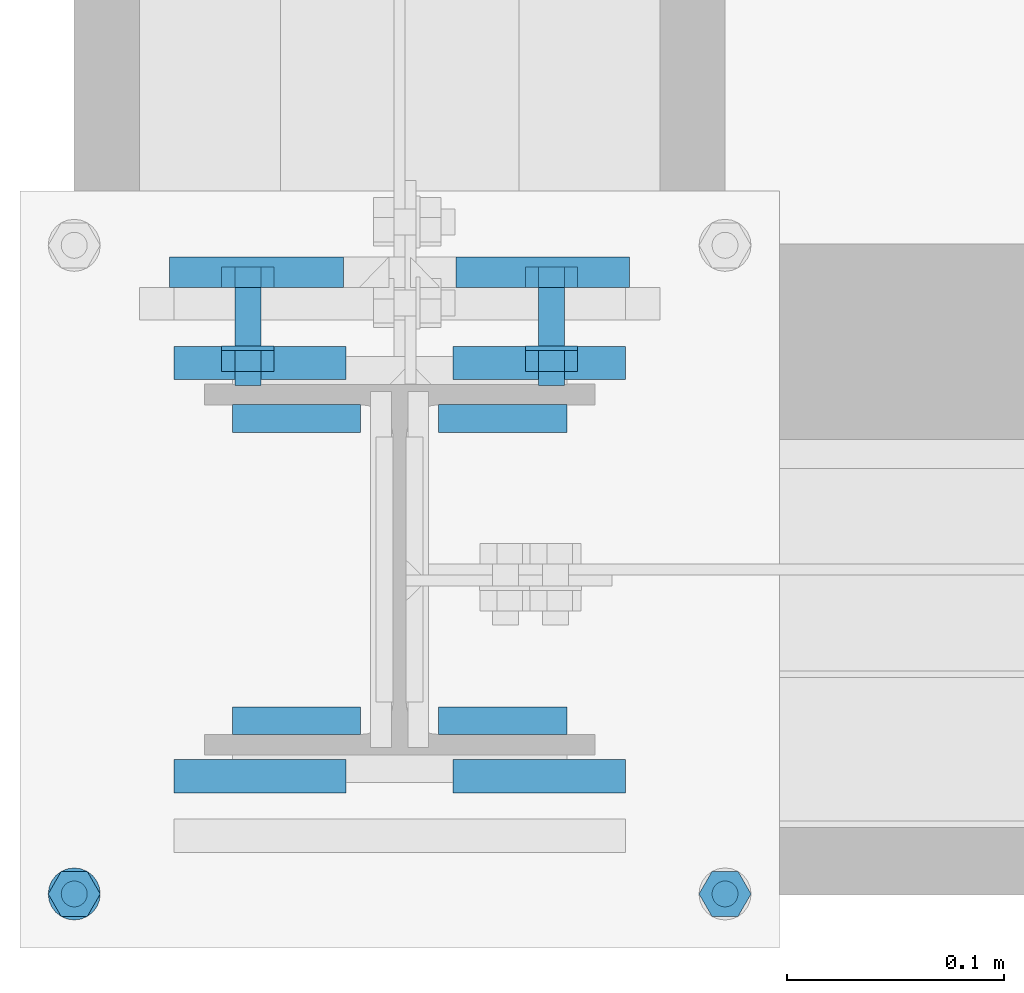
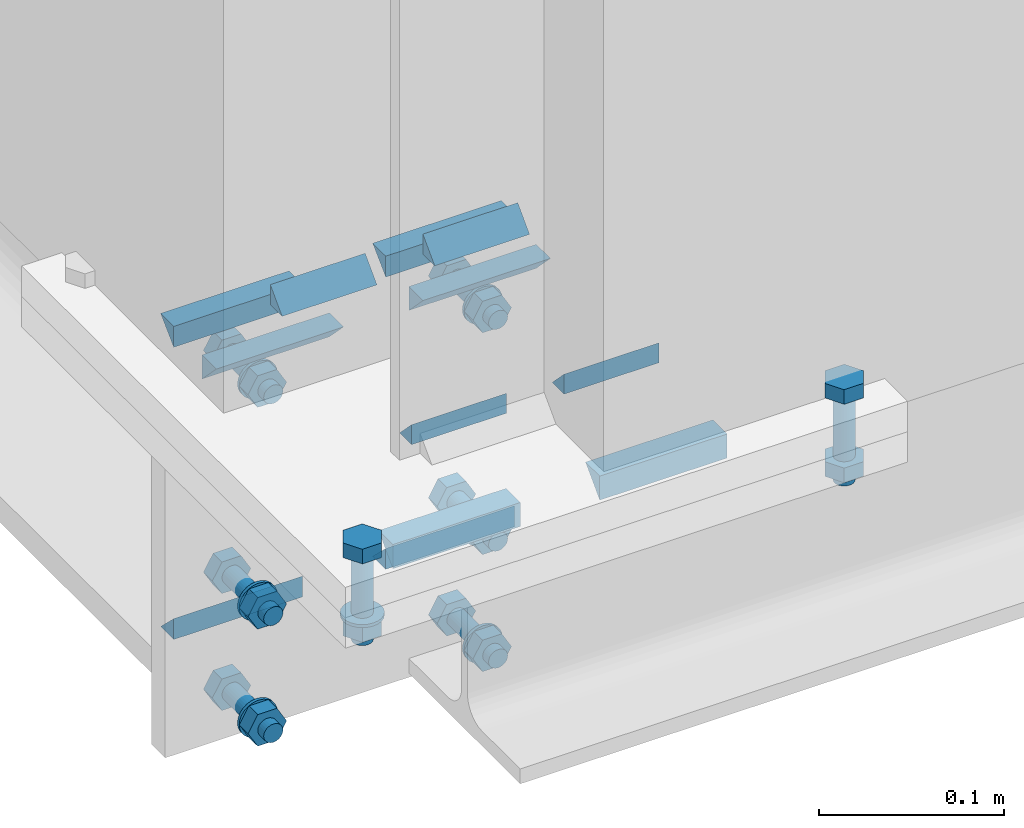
# One storey, part 26 of 66: 31 mechanical fasteners, 20 fasteners.
"""IFC4 building model written with IfcOpenShell, lengths in metres."""

from ifc_helpers import new_model, si_unit, frame, origin_with_axes, place, context, project, spatial, polyline, outline, extrude, type_object, element, save


model = new_model("IFC4")

# Units and contexts
model_context = context("Model", 3, precision=1e-05, world=origin_with_axes())
ifc_project = project(units=[si_unit("LENGTHUNIT", "METRE"), si_unit("AREAUNIT", "SQUARE_METRE"), si_unit("VOLUMEUNIT", "CUBIC_METRE"), si_unit("MASSUNIT", "GRAM", prefix="KILO"), si_unit("TIMEUNIT", "SECOND"), si_unit("PLANEANGLEUNIT", "RADIAN"), si_unit("SOLIDANGLEUNIT", "STERADIAN"), si_unit("THERMODYNAMICTEMPERATUREUNIT", "DEGREE_CELSIUS")], contexts=[model_context])

# Site, building, storey
placement_1 = place(None, origin_with_axes())
site = spatial("IfcSite", under=ifc_project, at=placement_1, Name="Italia", CompositionType="ELEMENT")
building = spatial("IfcBuilding", under=site, at=placement_1, Name="Uffici", CompositionType="ELEMENT")
storey_placement = place(None, frame((0.0, 0.0, 3.299999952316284), z_axis=(0.0, 0.0, 1.0), x_axis=(1.0, 0.0, 0.0)))
storey = spatial("IfcBuildingStorey", under=building, at=storey_placement, Name="Storey 1", CompositionType="ELEMENT", Elevation=3.299999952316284)

# Fasteners
fastener_type_1 = type_object("IfcFastenerType", Name="Collegamenti 0101_-001 0102_-002 0103_-003 0104_-004", PredefinedType="WELD")
placement_2 = place(placement_1, origin_with_axes())
fastener_1_placement = place(placement_2, origin_with_axes())
element("IfcFastener", 1, at=fastener_1_placement, inside=storey, type_object=fastener_type_1, Name="Collegamenti 0101_-001 0102_-002 0103_-003 0104_-004", context=model_context, shape_type="SweptSolid", body=[
    extrude(outline(polyline([(0.0, 0.0), (-0.0141734, 0.0137482), (0.0, 0.0137482), (0.0, 0.0)])), frame((-0.02595, 0.12995, 3.2693), z_axis=(-1.0, 0.0, 0.0), x_axis=(0.0, -1.0, 0.0)), (0.0, 0.0, 1.0), 0.0801),
])
fastener_type_2 = type_object("IfcFastenerType", Name="Collegamenti 0101_-001 0102_-002 0103_-003 0104_-004", PredefinedType="WELD")
fastener_2_placement = place(placement_2, origin_with_axes())
element("IfcFastener", 2, at=fastener_2_placement, inside=storey, type_object=fastener_type_2, Name="Collegamenti 0101_-001 0102_-002 0103_-003 0104_-004", context=model_context, shape_type="SweptSolid", body=[
    extrude(outline(polyline([(0.0, 0.0), (0.0141734, -0.0137482), (0.0, -0.0137482), (0.0, 0.0)])), frame((-0.10605, 0.12995, 3.0907), z_axis=(1.0, 0.0, 0.0), x_axis=(0.0, 1.0, 0.0)), (0.0, 0.0, 1.0), 0.0801),
])
fastener_type_3 = type_object("IfcFastenerType", Name="Collegamenti 0101_-001 0102_-002 0103_-003 0104_-004", PredefinedType="WELD")
fastener_3_placement = place(placement_2, origin_with_axes())
element("IfcFastener", 3, at=fastener_3_placement, inside=storey, type_object=fastener_type_3, Name="Collegamenti 0101_-001 0102_-002 0103_-003 0104_-004", context=model_context, shape_type="SweptSolid", body=[
    extrude(outline(polyline([(0.0, 0.0), (0.0141734, -0.0137482), (0.0, -0.0137482), (0.0, 0.0)])), frame((0.02595, 0.12995, 3.0907), z_axis=(1.0, 0.0, 0.0), x_axis=(0.0, 1.0, 0.0)), (0.0, 0.0, 1.0), 0.0801),
])
fastener_type_4 = type_object("IfcFastenerType", Name="Collegamenti 0101_-001 0102_-002 0103_-003 0104_-004", PredefinedType="WELD")
fastener_4_placement = place(placement_2, origin_with_axes())
element("IfcFastener", 4, at=fastener_4_placement, inside=storey, type_object=fastener_type_4, Name="Collegamenti 0101_-001 0102_-002 0103_-003 0104_-004", context=model_context, shape_type="SweptSolid", body=[
    extrude(outline(polyline([(0.0, 0.0), (-0.0141733, 0.0137482), (0.0, 0.0137482), (0.0, 0.0)])), frame((0.10605, 0.12995, 3.2693), z_axis=(-1.0, 0.0, 0.0), x_axis=(0.0, -1.0, 0.0)), (0.0, 0.0, 1.0), 0.0801),
])
fastener_type_5 = type_object("IfcFastenerType", Name="Collegamenti 0101_-001 0102_-002 0103_-003 0104_-004", PredefinedType="WELD")
fastener_5_placement = place(placement_2, origin_with_axes())
element("IfcFastener", 5, at=fastener_5_placement, inside=storey, type_object=fastener_type_5, Name="Collegamenti 0101_-001 0102_-002 0103_-003 0104_-004", context=model_context, shape_type="SweptSolid", body=[
    extrude(outline(polyline([(0.0, 0.0), (-0.0141734, 0.0137482), (0.0, 0.0137482), (0.0, 0.0)])), frame((-0.02595, 0.12995, 3.2693), z_axis=(-1.0, 0.0, 0.0), x_axis=(0.0, -1.0, 0.0)), (0.0, 0.0, 1.0), 0.0801),
])
fastener_type_6 = type_object("IfcFastenerType", Name="Collegamenti 0101_-001 0102_-002 0103_-003 0104_-004", PredefinedType="WELD")
fastener_6_placement = place(placement_2, origin_with_axes())
element("IfcFastener", 6, at=fastener_6_placement, inside=storey, type_object=fastener_type_6, Name="Collegamenti 0101_-001 0102_-002 0103_-003 0104_-004", context=model_context, shape_type="SweptSolid", body=[
    extrude(outline(polyline([(0.0, 0.0), (0.0141734, -0.0137482), (0.0, -0.0137482), (0.0, 0.0)])), frame((-0.10605, 0.12995, 3.0907), z_axis=(1.0, 0.0, 0.0), x_axis=(0.0, 1.0, 0.0)), (0.0, 0.0, 1.0), 0.0801),
])
fastener_type_7 = type_object("IfcFastenerType", Name="Collegamenti 0101_-001 0102_-002 0103_-003 0104_-004", PredefinedType="WELD")
fastener_7_placement = place(placement_2, origin_with_axes())
element("IfcFastener", 7, at=fastener_7_placement, inside=storey, type_object=fastener_type_7, Name="Collegamenti 0101_-001 0102_-002 0103_-003 0104_-004", context=model_context, shape_type="SweptSolid", body=[
    extrude(outline(polyline([(0.0, 0.0), (0.0141734, -0.0137482), (0.0, -0.0137482), (0.0, 0.0)])), frame((0.02595, 0.12995, 3.0907), z_axis=(1.0, 0.0, 0.0), x_axis=(0.0, 1.0, 0.0)), (0.0, 0.0, 1.0), 0.0801),
])
fastener_type_8 = type_object("IfcFastenerType", Name="Collegamenti 0101_-001 0102_-002 0103_-003 0104_-004", PredefinedType="WELD")
fastener_8_placement = place(placement_2, origin_with_axes())
element("IfcFastener", 8, at=fastener_8_placement, inside=storey, type_object=fastener_type_8, Name="Collegamenti 0101_-001 0102_-002 0103_-003 0104_-004", context=model_context, shape_type="SweptSolid", body=[
    extrude(outline(polyline([(0.0, 0.0), (-0.0141733, 0.0137482), (0.0, 0.0137482), (0.0, 0.0)])), frame((0.10605, 0.12995, 3.2693), z_axis=(-1.0, 0.0, 0.0), x_axis=(0.0, -1.0, 0.0)), (0.0, 0.0, 1.0), 0.0801),
])

# Mechanical fasteners
mechanical_fastener_type_1 = type_object("IfcMechanicalFastenerType", Name="Collegamenti 0101_-001 0102_-002 0103_-003 0104_-004", PredefinedType="BOLT")
mechanical_fastener_1_placement = place(placement_2, origin_with_axes())
element("IfcMechanicalFastener", 9, at=mechanical_fastener_1_placement, inside=storey, type_object=mechanical_fastener_type_1, Name="Collegamenti 0101_-001 0102_-002 0103_-003 0104_-004", NominalDiameter=0.0119999, context=model_context, shape_type="SweptSolid", body=[
    extrude(outline(polyline([(0.0, 0.0), (-0.012, 0.0), (-0.018, 0.0103924), (-0.012, 0.0207846), (0.0, 0.0207846), (0.006, 0.0103924), (0.0, 0.0)])), frame((0.064, 0.13, 3.09661), z_axis=(0.0, 1.0, 0.0), x_axis=(-1.0, 0.0, 0.0)), (0.0, 0.0, 1.0), 0.0096),
])
mechanical_fastener_type_2 = type_object("IfcMechanicalFastenerType", Name="Collegamenti 0101_-001 0102_-002 0103_-003 0104_-004", PredefinedType="BOLT")
mechanical_fastener_2_placement = place(placement_2, origin_with_axes())
element("IfcMechanicalFastener", 10, at=mechanical_fastener_2_placement, inside=storey, type_object=mechanical_fastener_type_2, Name="Collegamenti 0101_-001 0102_-002 0103_-003 0104_-004", NominalDiameter=0.012, context=model_context, shape_type="SweptSolid", body=[
    extrude(outline(polyline([(0.0, 0.0), (-0.000204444, -0.00155282), (-0.000803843, -0.00300002), (-0.00175735, -0.00424266), (-0.003, -0.00519609), (-0.00444708, -0.00579548), (-0.006, -0.00600004), (-0.00755291, -0.00579548), (-0.009, -0.00519609), (-0.0102426, -0.00424266), (-0.0111962, -0.00300002), (-0.0117956, -0.00155282), (-0.012, 0.0), (-0.0117956, 0.00155282), (-0.0111962, 0.00300002), (-0.0102426, 0.00424266), (-0.009, 0.00519609), (-0.00755291, 0.00579548), (-0.006, 0.00600004), (-0.00444708, 0.00579548), (-0.003, 0.00519609), (-0.00175735, 0.00424266), (-0.000803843, 0.00300002), (-0.000204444, 0.00155282), (0.0, 0.0)])), frame((0.064, 0.085, 3.107), z_axis=(0.0, 1.0, 0.0), x_axis=(-1.0, 0.0, 0.0)), (0.0, 0.0, 1.0), 0.045),
])
mechanical_fastener_type_3 = type_object("IfcMechanicalFastenerType", Name="Collegamenti 0101_-001 0102_-002 0103_-003 0104_-004", PredefinedType="BOLT")
mechanical_fastener_3_placement = place(placement_2, origin_with_axes())
element("IfcMechanicalFastener", 11, at=mechanical_fastener_3_placement, inside=storey, type_object=mechanical_fastener_type_3, Name="Collegamenti 0101_-001 0102_-002 0103_-003 0104_-004", NominalDiameter=0.0119999, context=model_context, shape_type="SweptSolid", body=[
    extrude(outline(polyline([(0.0, 0.0), (-0.012, 0.0), (-0.018, 0.0103924), (-0.012, 0.0207846), (0.0, 0.0207846), (0.006, 0.0103924), (0.0, 0.0)])), frame((0.064, 0.0914, 3.09661), z_axis=(0.0, 1.0, 0.0), x_axis=(-1.0, 0.0, 0.0)), (0.0, 0.0, 1.0), 0.0096),
])
mechanical_fastener_type_4 = type_object("IfcMechanicalFastenerType", Name="Collegamenti 0101_-001 0102_-002 0103_-003 0104_-004", PredefinedType="BOLT")
mechanical_fastener_4_placement = place(placement_2, origin_with_axes())
element("IfcMechanicalFastener", 12, at=mechanical_fastener_4_placement, inside=storey, type_object=mechanical_fastener_type_4, Name="Collegamenti 0101_-001 0102_-002 0103_-003 0104_-004", NominalDiameter=0.024, context=model_context, shape_type="SweptSolid", body=[
    extrude(outline(polyline([(0.0, 0.0), (-0.000408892, -0.00310588), (-0.0016077, -0.00600004), (-0.00351472, -0.00848532), (-0.006, -0.0103922), (-0.00889418, -0.0115912), (-0.012, -0.0120001), (-0.0151058, -0.0115912), (-0.018, -0.0103922), (-0.0204853, -0.00848532), (-0.0223923, -0.00600004), (-0.0235911, -0.00310588), (-0.024, 0.0), (-0.0235911, 0.00310588), (-0.0223923, 0.00600004), (-0.0204853, 0.00848532), (-0.018, 0.0103922), (-0.0151058, 0.0115912), (-0.012, 0.0120001), (-0.00889418, 0.0115912), (-0.006, 0.0103922), (-0.00351472, 0.00848532), (-0.00160769, 0.00600004), (-0.000408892, 0.00310588), (0.0, 0.0)])), frame((0.058, 0.101, 3.107), z_axis=(0.0, 1.0, 0.0), x_axis=(-1.0, 0.0, 0.0)), (0.0, 0.0, 1.0), 0.002),
])
mechanical_fastener_type_5 = type_object("IfcMechanicalFastenerType", Name="Collegamenti 0101_-001 0102_-002 0103_-003 0104_-004", PredefinedType="BOLT")
mechanical_fastener_5_placement = place(placement_2, origin_with_axes())
element("IfcMechanicalFastener", 13, at=mechanical_fastener_5_placement, inside=storey, type_object=mechanical_fastener_type_5, Name="Collegamenti 0101_-001 0102_-002 0103_-003 0104_-004", NominalDiameter=0.0119999, context=model_context, shape_type="SweptSolid", body=[
    extrude(outline(polyline([(0.0, 0.0), (-0.012, 0.0), (-0.018, 0.0103924), (-0.012, 0.0207846), (0.0, 0.0207846), (0.006, 0.0103924), (0.0, 0.0)])), frame((-0.076, 0.13, 3.09661), z_axis=(0.0, 1.0, 0.0), x_axis=(-1.0, 0.0, 0.0)), (0.0, 0.0, 1.0), 0.0096),
])
mechanical_fastener_type_6 = type_object("IfcMechanicalFastenerType", Name="Collegamenti 0101_-001 0102_-002 0103_-003 0104_-004", PredefinedType="BOLT")
mechanical_fastener_6_placement = place(placement_2, origin_with_axes())
element("IfcMechanicalFastener", 14, at=mechanical_fastener_6_placement, inside=storey, type_object=mechanical_fastener_type_6, Name="Collegamenti 0101_-001 0102_-002 0103_-003 0104_-004", NominalDiameter=0.012, context=model_context, shape_type="SweptSolid", body=[
    extrude(outline(polyline([(0.0, 0.0), (-0.000204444, -0.00155282), (-0.000803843, -0.00300002), (-0.00175735, -0.00424266), (-0.003, -0.00519609), (-0.00444708, -0.00579548), (-0.006, -0.00600004), (-0.00755291, -0.00579548), (-0.009, -0.00519609), (-0.0102426, -0.00424266), (-0.0111962, -0.00300002), (-0.0117956, -0.00155282), (-0.012, 0.0), (-0.0117956, 0.00155282), (-0.0111962, 0.00300002), (-0.0102426, 0.00424266), (-0.009, 0.00519609), (-0.00755291, 0.00579548), (-0.006, 0.00600004), (-0.00444708, 0.00579548), (-0.003, 0.00519609), (-0.00175735, 0.00424266), (-0.000803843, 0.00300002), (-0.000204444, 0.00155282), (0.0, 0.0)])), frame((-0.076, 0.085, 3.107), z_axis=(0.0, 1.0, 0.0), x_axis=(-1.0, 0.0, 0.0)), (0.0, 0.0, 1.0), 0.045),
])
mechanical_fastener_type_7 = type_object("IfcMechanicalFastenerType", Name="Collegamenti 0101_-001 0102_-002 0103_-003 0104_-004", PredefinedType="BOLT")
mechanical_fastener_7_placement = place(placement_2, origin_with_axes())
element("IfcMechanicalFastener", 15, at=mechanical_fastener_7_placement, inside=storey, type_object=mechanical_fastener_type_7, Name="Collegamenti 0101_-001 0102_-002 0103_-003 0104_-004", NominalDiameter=0.0119999, context=model_context, shape_type="SweptSolid", body=[
    extrude(outline(polyline([(0.0, 0.0), (-0.012, 0.0), (-0.018, 0.0103924), (-0.012, 0.0207846), (0.0, 0.0207846), (0.006, 0.0103924), (0.0, 0.0)])), frame((-0.076, 0.0914, 3.09661), z_axis=(0.0, 1.0, 0.0), x_axis=(-1.0, 0.0, 0.0)), (0.0, 0.0, 1.0), 0.00960001),
])
mechanical_fastener_type_8 = type_object("IfcMechanicalFastenerType", Name="Collegamenti 0101_-001 0102_-002 0103_-003 0104_-004", PredefinedType="BOLT")
mechanical_fastener_8_placement = place(placement_2, origin_with_axes())
element("IfcMechanicalFastener", 16, at=mechanical_fastener_8_placement, inside=storey, type_object=mechanical_fastener_type_8, Name="Collegamenti 0101_-001 0102_-002 0103_-003 0104_-004", NominalDiameter=0.024, context=model_context, shape_type="SweptSolid", body=[
    extrude(outline(polyline([(0.0, 0.0), (-0.000408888, -0.00310588), (-0.0016077, -0.00600004), (-0.00351472, -0.00848532), (-0.006, -0.0103922), (-0.00889418, -0.0115912), (-0.012, -0.0120001), (-0.0151058, -0.0115912), (-0.018, -0.0103922), (-0.0204853, -0.00848532), (-0.0223923, -0.00600004), (-0.0235911, -0.00310588), (-0.024, 0.0), (-0.0235911, 0.00310588), (-0.0223923, 0.00600004), (-0.0204853, 0.00848532), (-0.018, 0.0103922), (-0.0151058, 0.0115912), (-0.012, 0.0120001), (-0.00889418, 0.0115912), (-0.006, 0.0103922), (-0.00351471, 0.00848532), (-0.00160769, 0.00600004), (-0.000408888, 0.00310588), (0.0, 0.0)])), frame((-0.082, 0.101, 3.107), z_axis=(0.0, 1.0, 0.0), x_axis=(-1.0, 0.0, 0.0)), (0.0, 0.0, 1.0), 0.002),
])
mechanical_fastener_type_9 = type_object("IfcMechanicalFastenerType", Name="Collegamenti 0101_-001 0102_-002 0103_-003 0104_-004", PredefinedType="BOLT")
mechanical_fastener_9_placement = place(placement_2, origin_with_axes())
element("IfcMechanicalFastener", 17, at=mechanical_fastener_9_placement, inside=storey, type_object=mechanical_fastener_type_9, Name="Collegamenti 0101_-001 0102_-002 0103_-003 0104_-004", NominalDiameter=0.0119999, context=model_context, shape_type="SweptSolid", body=[
    extrude(outline(polyline([(0.0, 0.0), (-0.012, 0.0), (-0.018, 0.0103922), (-0.012, 0.0207846), (0.0, 0.0207846), (0.006, 0.0103922), (0.0, 0.0)])), frame((0.064, 0.13, 3.24261), z_axis=(0.0, 1.0, 0.0), x_axis=(-1.0, 0.0, 0.0)), (0.0, 0.0, 1.0), 0.0096),
])
mechanical_fastener_type_10 = type_object("IfcMechanicalFastenerType", Name="Collegamenti 0101_-001 0102_-002 0103_-003 0104_-004", PredefinedType="BOLT")
mechanical_fastener_10_placement = place(placement_2, origin_with_axes())
element("IfcMechanicalFastener", 18, at=mechanical_fastener_10_placement, inside=storey, type_object=mechanical_fastener_type_10, Name="Collegamenti 0101_-001 0102_-002 0103_-003 0104_-004", NominalDiameter=0.012, context=model_context, shape_type="SweptSolid", body=[
    extrude(outline(polyline([(0.0, 0.0), (-0.000204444, -0.00155282), (-0.000803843, -0.00300002), (-0.00175735, -0.00424266), (-0.003, -0.00519609), (-0.00444708, -0.00579548), (-0.006, -0.00600004), (-0.00755291, -0.00579548), (-0.009, -0.00519609), (-0.0102426, -0.00424266), (-0.0111962, -0.00300002), (-0.0117956, -0.00155282), (-0.012, 0.0), (-0.0117956, 0.00155282), (-0.0111962, 0.00300002), (-0.0102426, 0.00424266), (-0.009, 0.00519609), (-0.00755291, 0.00579548), (-0.006, 0.00600004), (-0.00444708, 0.00579548), (-0.003, 0.00519609), (-0.00175735, 0.00424266), (-0.000803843, 0.00300002), (-0.000204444, 0.00155282), (0.0, 0.0)])), frame((0.064, 0.085, 3.253), z_axis=(0.0, 1.0, 0.0), x_axis=(-1.0, 0.0, 0.0)), (0.0, 0.0, 1.0), 0.045),
])
mechanical_fastener_type_11 = type_object("IfcMechanicalFastenerType", Name="Collegamenti 0101_-001 0102_-002 0103_-003 0104_-004", PredefinedType="BOLT")
mechanical_fastener_11_placement = place(placement_2, origin_with_axes())
element("IfcMechanicalFastener", 19, at=mechanical_fastener_11_placement, inside=storey, type_object=mechanical_fastener_type_11, Name="Collegamenti 0101_-001 0102_-002 0103_-003 0104_-004", NominalDiameter=0.0119999, context=model_context, shape_type="SweptSolid", body=[
    extrude(outline(polyline([(0.0, 0.0), (-0.012, 0.0), (-0.018, 0.0103922), (-0.012, 0.0207846), (0.0, 0.0207846), (0.006, 0.0103922), (0.0, 0.0)])), frame((0.064, 0.0914, 3.24261), z_axis=(0.0, 1.0, 0.0), x_axis=(-1.0, 0.0, 0.0)), (0.0, 0.0, 1.0), 0.0096),
])
mechanical_fastener_type_12 = type_object("IfcMechanicalFastenerType", Name="Collegamenti 0101_-001 0102_-002 0103_-003 0104_-004", PredefinedType="BOLT")
mechanical_fastener_12_placement = place(placement_2, origin_with_axes())
element("IfcMechanicalFastener", 20, at=mechanical_fastener_12_placement, inside=storey, type_object=mechanical_fastener_type_12, Name="Collegamenti 0101_-001 0102_-002 0103_-003 0104_-004", NominalDiameter=0.024, context=model_context, shape_type="SweptSolid", body=[
    extrude(outline(polyline([(0.0, 0.0), (-0.000408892, -0.00310588), (-0.0016077, -0.00600004), (-0.00351472, -0.00848532), (-0.006, -0.0103922), (-0.00889418, -0.0115912), (-0.012, -0.0120001), (-0.0151058, -0.0115912), (-0.018, -0.0103922), (-0.0204853, -0.00848532), (-0.0223923, -0.00600004), (-0.0235911, -0.00310588), (-0.024, 0.0), (-0.0235911, 0.00310588), (-0.0223923, 0.00600004), (-0.0204853, 0.00848532), (-0.018, 0.0103922), (-0.0151058, 0.0115912), (-0.012, 0.0120001), (-0.00889418, 0.0115912), (-0.006, 0.0103922), (-0.00351472, 0.00848532), (-0.00160769, 0.00600004), (-0.000408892, 0.00310588), (0.0, 0.0)])), frame((0.058, 0.101, 3.253), z_axis=(0.0, 1.0, 0.0), x_axis=(-1.0, 0.0, 0.0)), (0.0, 0.0, 1.0), 0.002),
])
mechanical_fastener_type_13 = type_object("IfcMechanicalFastenerType", Name="Collegamenti 0101_-001 0102_-002 0103_-003 0104_-004", PredefinedType="BOLT")
mechanical_fastener_13_placement = place(placement_2, origin_with_axes())
element("IfcMechanicalFastener", 21, at=mechanical_fastener_13_placement, inside=storey, type_object=mechanical_fastener_type_13, Name="Collegamenti 0101_-001 0102_-002 0103_-003 0104_-004", NominalDiameter=0.0119999, context=model_context, shape_type="SweptSolid", body=[
    extrude(outline(polyline([(0.0, 0.0), (-0.012, 0.0), (-0.018, 0.0103922), (-0.012, 0.0207846), (0.0, 0.0207846), (0.006, 0.0103922), (0.0, 0.0)])), frame((-0.076, 0.13, 3.24261), z_axis=(0.0, 1.0, 0.0), x_axis=(-1.0, 0.0, 0.0)), (0.0, 0.0, 1.0), 0.0096),
])
mechanical_fastener_type_14 = type_object("IfcMechanicalFastenerType", Name="Collegamenti 0101_-001 0102_-002 0103_-003 0104_-004", PredefinedType="BOLT")
mechanical_fastener_14_placement = place(placement_2, origin_with_axes())
element("IfcMechanicalFastener", 22, at=mechanical_fastener_14_placement, inside=storey, type_object=mechanical_fastener_type_14, Name="Collegamenti 0101_-001 0102_-002 0103_-003 0104_-004", NominalDiameter=0.012, context=model_context, shape_type="SweptSolid", body=[
    extrude(outline(polyline([(0.0, 0.0), (-0.000204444, -0.00155282), (-0.000803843, -0.00300002), (-0.00175735, -0.00424266), (-0.003, -0.00519609), (-0.00444708, -0.00579548), (-0.006, -0.00600004), (-0.00755291, -0.00579548), (-0.009, -0.00519609), (-0.0102426, -0.00424266), (-0.0111962, -0.00300002), (-0.0117956, -0.00155282), (-0.012, 0.0), (-0.0117956, 0.00155282), (-0.0111962, 0.00300002), (-0.0102426, 0.00424266), (-0.009, 0.00519609), (-0.00755291, 0.00579548), (-0.006, 0.00600004), (-0.00444708, 0.00579548), (-0.003, 0.00519609), (-0.00175735, 0.00424266), (-0.000803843, 0.00300002), (-0.000204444, 0.00155282), (0.0, 0.0)])), frame((-0.076, 0.085, 3.253), z_axis=(0.0, 1.0, 0.0), x_axis=(-1.0, 0.0, 0.0)), (0.0, 0.0, 1.0), 0.045),
])
mechanical_fastener_type_15 = type_object("IfcMechanicalFastenerType", Name="Collegamenti 0101_-001 0102_-002 0103_-003 0104_-004", PredefinedType="BOLT")
mechanical_fastener_15_placement = place(placement_2, origin_with_axes())
element("IfcMechanicalFastener", 23, at=mechanical_fastener_15_placement, inside=storey, type_object=mechanical_fastener_type_15, Name="Collegamenti 0101_-001 0102_-002 0103_-003 0104_-004", NominalDiameter=0.0119999, context=model_context, shape_type="SweptSolid", body=[
    extrude(outline(polyline([(0.0, 0.0), (-0.012, 0.0), (-0.018, 0.0103922), (-0.012, 0.0207846), (0.0, 0.0207846), (0.006, 0.0103922), (0.0, 0.0)])), frame((-0.076, 0.0914, 3.24261), z_axis=(0.0, 1.0, 0.0), x_axis=(-1.0, 0.0, 0.0)), (0.0, 0.0, 1.0), 0.00960001),
])
mechanical_fastener_type_16 = type_object("IfcMechanicalFastenerType", Name="Collegamenti 0101_-001 0102_-002 0103_-003 0104_-004", PredefinedType="BOLT")
mechanical_fastener_16_placement = place(placement_2, origin_with_axes())
element("IfcMechanicalFastener", 24, at=mechanical_fastener_16_placement, inside=storey, type_object=mechanical_fastener_type_16, Name="Collegamenti 0101_-001 0102_-002 0103_-003 0104_-004", NominalDiameter=0.024, context=model_context, shape_type="SweptSolid", body=[
    extrude(outline(polyline([(0.0, 0.0), (-0.000408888, -0.00310588), (-0.0016077, -0.00600004), (-0.00351472, -0.00848532), (-0.006, -0.0103922), (-0.00889418, -0.0115912), (-0.012, -0.0120001), (-0.0151058, -0.0115912), (-0.018, -0.0103922), (-0.0204853, -0.00848532), (-0.0223923, -0.00600004), (-0.0235911, -0.00310588), (-0.024, 0.0), (-0.0235911, 0.00310588), (-0.0223923, 0.00600004), (-0.0204853, 0.00848532), (-0.018, 0.0103922), (-0.0151058, 0.0115912), (-0.012, 0.0120001), (-0.00889418, 0.0115912), (-0.006, 0.0103922), (-0.00351471, 0.00848532), (-0.00160769, 0.00600004), (-0.000408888, 0.00310588), (0.0, 0.0)])), frame((-0.082, 0.101, 3.253), z_axis=(0.0, 1.0, 0.0), x_axis=(-1.0, 0.0, 0.0)), (0.0, 0.0, 1.0), 0.002),
])
mechanical_fastener_type_17 = type_object("IfcMechanicalFastenerType", Name="Collegamenti 0101_-001 0102_-002 0103_-003 0104_-004", PredefinedType="BOLT")
mechanical_fastener_17_placement = place(placement_2, origin_with_axes())
element("IfcMechanicalFastener", 25, at=mechanical_fastener_17_placement, inside=storey, type_object=mechanical_fastener_type_17, Name="Collegamenti 0101_-001 0102_-002 0103_-003 0104_-004", NominalDiameter=0.0119999, context=model_context, shape_type="SweptSolid", body=[
    extrude(outline(polyline([(0.0, 0.0), (-0.012, 0.0), (-0.018, 0.0103922), (-0.012, 0.0207846), (0.0, 0.0207846), (0.006, 0.0103922), (0.0, 0.0)])), frame((0.064, 0.13, 3.01961), z_axis=(0.0, 1.0, 0.0), x_axis=(-1.0, 0.0, 0.0)), (0.0, 0.0, 1.0), 0.0096),
])
mechanical_fastener_type_18 = type_object("IfcMechanicalFastenerType", Name="Collegamenti 0101_-001 0102_-002 0103_-003 0104_-004", PredefinedType="BOLT")
mechanical_fastener_18_placement = place(placement_2, origin_with_axes())
element("IfcMechanicalFastener", 26, at=mechanical_fastener_18_placement, inside=storey, type_object=mechanical_fastener_type_18, Name="Collegamenti 0101_-001 0102_-002 0103_-003 0104_-004", NominalDiameter=0.012, context=model_context, shape_type="SweptSolid", body=[
    extrude(outline(polyline([(0.0, 0.0), (-0.000204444, -0.00155282), (-0.000803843, -0.00300002), (-0.00175735, -0.00424266), (-0.003, -0.00519609), (-0.00444708, -0.00579548), (-0.006, -0.00600004), (-0.00755291, -0.00579548), (-0.009, -0.00519609), (-0.0102426, -0.00424266), (-0.0111962, -0.00300002), (-0.0117956, -0.00155282), (-0.012, 0.0), (-0.0117956, 0.00155282), (-0.0111962, 0.00300002), (-0.0102426, 0.00424266), (-0.009, 0.00519609), (-0.00755291, 0.00579548), (-0.006, 0.00600004), (-0.00444708, 0.00579548), (-0.003, 0.00519609), (-0.00175735, 0.00424266), (-0.000803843, 0.00300002), (-0.000204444, 0.00155282), (0.0, 0.0)])), frame((0.064, 0.085, 3.03), z_axis=(0.0, 1.0, 0.0), x_axis=(-1.0, 0.0, 0.0)), (0.0, 0.0, 1.0), 0.045),
])
mechanical_fastener_type_19 = type_object("IfcMechanicalFastenerType", Name="Collegamenti 0101_-001 0102_-002 0103_-003 0104_-004", PredefinedType="BOLT")
mechanical_fastener_19_placement = place(placement_2, origin_with_axes())
element("IfcMechanicalFastener", 27, at=mechanical_fastener_19_placement, inside=storey, type_object=mechanical_fastener_type_19, Name="Collegamenti 0101_-001 0102_-002 0103_-003 0104_-004", NominalDiameter=0.0119999, context=model_context, shape_type="SweptSolid", body=[
    extrude(outline(polyline([(0.0, 0.0), (-0.012, 0.0), (-0.018, 0.0103922), (-0.012, 0.0207846), (0.0, 0.0207846), (0.006, 0.0103922), (0.0, 0.0)])), frame((0.064, 0.0914, 3.01961), z_axis=(0.0, 1.0, 0.0), x_axis=(-1.0, 0.0, 0.0)), (0.0, 0.0, 1.0), 0.0096),
])
mechanical_fastener_type_20 = type_object("IfcMechanicalFastenerType", Name="Collegamenti 0101_-001 0102_-002 0103_-003 0104_-004", PredefinedType="BOLT")
mechanical_fastener_20_placement = place(placement_2, origin_with_axes())
element("IfcMechanicalFastener", 28, at=mechanical_fastener_20_placement, inside=storey, type_object=mechanical_fastener_type_20, Name="Collegamenti 0101_-001 0102_-002 0103_-003 0104_-004", NominalDiameter=0.024, context=model_context, shape_type="SweptSolid", body=[
    extrude(outline(polyline([(0.0, 0.0), (-0.000408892, -0.00310588), (-0.0016077, -0.00600004), (-0.00351472, -0.00848532), (-0.006, -0.0103922), (-0.00889418, -0.0115912), (-0.012, -0.0120001), (-0.0151058, -0.0115912), (-0.018, -0.0103922), (-0.0204853, -0.00848532), (-0.0223923, -0.00600004), (-0.0235911, -0.00310588), (-0.024, 0.0), (-0.0235911, 0.00310588), (-0.0223923, 0.00600004), (-0.0204853, 0.00848532), (-0.018, 0.0103922), (-0.0151058, 0.0115912), (-0.012, 0.0120001), (-0.00889418, 0.0115912), (-0.006, 0.0103922), (-0.00351472, 0.00848532), (-0.00160769, 0.00600004), (-0.000408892, 0.00310588), (0.0, 0.0)])), frame((0.058, 0.101, 3.03), z_axis=(0.0, 1.0, 0.0), x_axis=(-1.0, 0.0, 0.0)), (0.0, 0.0, 1.0), 0.002),
])
mechanical_fastener_type_21 = type_object("IfcMechanicalFastenerType", Name="Collegamenti 0101_-001 0102_-002 0103_-003 0104_-004", PredefinedType="BOLT")
mechanical_fastener_21_placement = place(placement_2, origin_with_axes())
element("IfcMechanicalFastener", 29, at=mechanical_fastener_21_placement, inside=storey, type_object=mechanical_fastener_type_21, Name="Collegamenti 0101_-001 0102_-002 0103_-003 0104_-004", NominalDiameter=0.0119999, context=model_context, shape_type="SweptSolid", body=[
    extrude(outline(polyline([(0.0, 0.0), (-0.012, 0.0), (-0.018, 0.0103922), (-0.012, 0.0207846), (0.0, 0.0207846), (0.006, 0.0103922), (0.0, 0.0)])), frame((-0.076, 0.13, 3.01961), z_axis=(0.0, 1.0, 0.0), x_axis=(-1.0, 0.0, 0.0)), (0.0, 0.0, 1.0), 0.0096),
])
mechanical_fastener_type_22 = type_object("IfcMechanicalFastenerType", Name="Collegamenti 0101_-001 0102_-002 0103_-003 0104_-004", PredefinedType="BOLT")
mechanical_fastener_22_placement = place(placement_2, origin_with_axes())
element("IfcMechanicalFastener", 30, at=mechanical_fastener_22_placement, inside=storey, type_object=mechanical_fastener_type_22, Name="Collegamenti 0101_-001 0102_-002 0103_-003 0104_-004", NominalDiameter=0.012, context=model_context, shape_type="SweptSolid", body=[
    extrude(outline(polyline([(0.0, 0.0), (-0.000204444, -0.00155282), (-0.000803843, -0.00300002), (-0.00175735, -0.00424266), (-0.003, -0.00519609), (-0.00444708, -0.00579548), (-0.006, -0.00600004), (-0.00755291, -0.00579548), (-0.009, -0.00519609), (-0.0102426, -0.00424266), (-0.0111962, -0.00300002), (-0.0117956, -0.00155282), (-0.012, 0.0), (-0.0117956, 0.00155282), (-0.0111962, 0.00300002), (-0.0102426, 0.00424266), (-0.009, 0.00519609), (-0.00755291, 0.00579548), (-0.006, 0.00600004), (-0.00444708, 0.00579548), (-0.003, 0.00519609), (-0.00175735, 0.00424266), (-0.000803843, 0.00300002), (-0.000204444, 0.00155282), (0.0, 0.0)])), frame((-0.076, 0.085, 3.03), z_axis=(0.0, 1.0, 0.0), x_axis=(-1.0, 0.0, 0.0)), (0.0, 0.0, 1.0), 0.045),
])
mechanical_fastener_type_23 = type_object("IfcMechanicalFastenerType", Name="Collegamenti 0101_-001 0102_-002 0103_-003 0104_-004", PredefinedType="BOLT")
mechanical_fastener_23_placement = place(placement_2, origin_with_axes())
element("IfcMechanicalFastener", 31, at=mechanical_fastener_23_placement, inside=storey, type_object=mechanical_fastener_type_23, Name="Collegamenti 0101_-001 0102_-002 0103_-003 0104_-004", NominalDiameter=0.0119999, context=model_context, shape_type="SweptSolid", body=[
    extrude(outline(polyline([(0.0, 0.0), (-0.012, 0.0), (-0.018, 0.0103922), (-0.012, 0.0207846), (0.0, 0.0207846), (0.006, 0.0103922), (0.0, 0.0)])), frame((-0.076, 0.0914, 3.01961), z_axis=(0.0, 1.0, 0.0), x_axis=(-1.0, 0.0, 0.0)), (0.0, 0.0, 1.0), 0.00960001),
])
mechanical_fastener_type_24 = type_object("IfcMechanicalFastenerType", Name="Collegamenti 0101_-001 0102_-002 0103_-003 0104_-004", PredefinedType="BOLT")
mechanical_fastener_24_placement = place(placement_2, origin_with_axes())
element("IfcMechanicalFastener", 32, at=mechanical_fastener_24_placement, inside=storey, type_object=mechanical_fastener_type_24, Name="Collegamenti 0101_-001 0102_-002 0103_-003 0104_-004", NominalDiameter=0.024, context=model_context, shape_type="SweptSolid", body=[
    extrude(outline(polyline([(0.0, 0.0), (-0.000408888, -0.00310588), (-0.0016077, -0.00600004), (-0.00351472, -0.00848532), (-0.006, -0.0103922), (-0.00889418, -0.0115912), (-0.012, -0.0120001), (-0.0151058, -0.0115912), (-0.018, -0.0103922), (-0.0204853, -0.00848532), (-0.0223923, -0.00600004), (-0.0235911, -0.00310588), (-0.024, 0.0), (-0.0235911, 0.00310588), (-0.0223923, 0.00600004), (-0.0204853, 0.00848532), (-0.018, 0.0103922), (-0.0151058, 0.0115912), (-0.012, 0.0120001), (-0.00889418, 0.0115912), (-0.006, 0.0103922), (-0.00351471, 0.00848532), (-0.00160769, 0.00600004), (-0.000408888, 0.00310588), (0.0, 0.0)])), frame((-0.082, 0.101, 3.03), z_axis=(0.0, 1.0, 0.0), x_axis=(-1.0, 0.0, 0.0)), (0.0, 0.0, 1.0), 0.002),
])

# Fasteners
fastener_type_9 = type_object("IfcFastenerType", Name="Collegamenti 0101_0201 0102_0202 0103_0203 0104_0204 0105_0205", PredefinedType="WELD")
fastener_9_placement = place(placement_2, origin_with_axes())
element("IfcFastener", 33, at=fastener_9_placement, inside=storey, type_object=fastener_type_9, Name="Collegamenti 0101_0201 0102_0202 0103_0203 0104_0204 0105_0205", context=model_context, shape_type="SweptSolid", body=[
    extrude(outline(polyline([(0.0, 0.0), (0.0127782, 0.0131733), (0.0127782, 0.0), (0.0, 0.0)])), frame((0.01795, 0.0632718, 3.31995), z_axis=(1.0, 0.0, 0.0), x_axis=(0.0, 1.0, 0.0)), (0.0, 0.0, 1.0), 0.0591),
])
fastener_type_10 = type_object("IfcFastenerType", Name="Collegamenti 0101_0201 0102_0202 0103_0203 0104_0204 0105_0205", PredefinedType="WELD")
fastener_10_placement = place(placement_2, origin_with_axes())
element("IfcFastener", 34, at=fastener_10_placement, inside=storey, type_object=fastener_type_10, Name="Collegamenti 0101_0201 0102_0202 0103_0203 0104_0204 0105_0205", context=model_context, shape_type="SweptSolid", body=[
    extrude(outline(polyline([(0.0, 0.0), (0.0127782, 0.0131733), (0.0127782, 0.0), (0.0, 0.0)])), frame((0.07705, -0.0632718, 3.31995), z_axis=(-1.0, 0.0, 0.0), x_axis=(0.0, -1.0, 0.0)), (0.0, 0.0, 1.0), 0.0591),
])
fastener_type_11 = type_object("IfcFastenerType", Name="Collegamenti 0101_0201 0102_0202 0103_0203 0104_0204 0105_0205", PredefinedType="WELD")
fastener_11_placement = place(placement_2, origin_with_axes())
element("IfcFastener", 35, at=fastener_11_placement, inside=storey, type_object=fastener_type_11, Name="Collegamenti 0101_0201 0102_0202 0103_0203 0104_0204 0105_0205", context=model_context, shape_type="SweptSolid", body=[
    extrude(outline(polyline([(0.0, 0.0), (0.0127782, 0.0131733), (0.0127782, 0.0), (0.0, 0.0)])), frame((-0.01795, -0.0632718, 3.31995), z_axis=(-1.0, 0.0, 0.0), x_axis=(0.0, -1.0, 0.0)), (0.0, 0.0, 1.0), 0.0591),
])
fastener_type_12 = type_object("IfcFastenerType", Name="Collegamenti 0101_0201 0102_0202 0103_0203 0104_0204 0105_0205", PredefinedType="WELD")
fastener_12_placement = place(placement_2, origin_with_axes())
element("IfcFastener", 36, at=fastener_12_placement, inside=storey, type_object=fastener_type_12, Name="Collegamenti 0101_0201 0102_0202 0103_0203 0104_0204 0105_0205", context=model_context, shape_type="SweptSolid", body=[
    extrude(outline(polyline([(0.0, 0.0), (0.0127782, 0.0131733), (0.0127782, 0.0), (0.0, 0.0)])), frame((-0.07705, 0.0632718, 3.31995), z_axis=(1.0, 0.0, 0.0), x_axis=(0.0, 1.0, 0.0)), (0.0, 0.0, 1.0), 0.0591),
])
fastener_type_13 = type_object("IfcFastenerType", Name="Collegamenti 0101_0201 0102_0202 0103_0203 0104_0204 0105_0205", PredefinedType="WELD")
fastener_13_placement = place(placement_2, origin_with_axes())
element("IfcFastener", 37, at=fastener_13_placement, inside=storey, type_object=fastener_type_13, Name="Collegamenti 0101_0201 0102_0202 0103_0203 0104_0204 0105_0205", context=model_context, shape_type="SweptSolid", body=[
    extrude(outline(polyline([(0.0, 0.0), (0.0127782, 0.0131733), (0.0127782, 0.0), (0.0, 0.0)])), frame((0.01795, 0.0632718, 3.31995), z_axis=(1.0, 0.0, 0.0), x_axis=(0.0, 1.0, 0.0)), (0.0, 0.0, 1.0), 0.0591),
])
fastener_type_14 = type_object("IfcFastenerType", Name="Collegamenti 0101_0201 0102_0202 0103_0203 0104_0204 0105_0205", PredefinedType="WELD")
fastener_14_placement = place(placement_2, origin_with_axes())
element("IfcFastener", 38, at=fastener_14_placement, inside=storey, type_object=fastener_type_14, Name="Collegamenti 0101_0201 0102_0202 0103_0203 0104_0204 0105_0205", context=model_context, shape_type="SweptSolid", body=[
    extrude(outline(polyline([(0.0, 0.0), (0.0127782, 0.0131733), (0.0127782, 0.0), (0.0, 0.0)])), frame((0.07705, -0.0632718, 3.31995), z_axis=(-1.0, 0.0, 0.0), x_axis=(0.0, -1.0, 0.0)), (0.0, 0.0, 1.0), 0.0591),
])
fastener_type_15 = type_object("IfcFastenerType", Name="Collegamenti 0101_0201 0102_0202 0103_0203 0104_0204 0105_0205", PredefinedType="WELD")
fastener_15_placement = place(placement_2, origin_with_axes())
element("IfcFastener", 39, at=fastener_15_placement, inside=storey, type_object=fastener_type_15, Name="Collegamenti 0101_0201 0102_0202 0103_0203 0104_0204 0105_0205", context=model_context, shape_type="SweptSolid", body=[
    extrude(outline(polyline([(0.0, 0.0), (0.0127782, 0.0131733), (0.0127782, 0.0), (0.0, 0.0)])), frame((-0.01795, -0.0632718, 3.31995), z_axis=(-1.0, 0.0, 0.0), x_axis=(0.0, -1.0, 0.0)), (0.0, 0.0, 1.0), 0.0591),
])
fastener_type_16 = type_object("IfcFastenerType", Name="Collegamenti 0101_0201 0102_0202 0103_0203 0104_0204 0105_0205", PredefinedType="WELD")
fastener_16_placement = place(placement_2, origin_with_axes())
element("IfcFastener", 40, at=fastener_16_placement, inside=storey, type_object=fastener_type_16, Name="Collegamenti 0101_0201 0102_0202 0103_0203 0104_0204 0105_0205", context=model_context, shape_type="SweptSolid", body=[
    extrude(outline(polyline([(0.0, 0.0), (0.0127782, 0.0131733), (0.0127782, 0.0), (0.0, 0.0)])), frame((-0.07705, 0.0632718, 3.31995), z_axis=(1.0, 0.0, 0.0), x_axis=(0.0, 1.0, 0.0)), (0.0, 0.0, 1.0), 0.0591),
])
fastener_type_17 = type_object("IfcFastenerType", Name="Collegamenti 0101_0201 0102_0202 0103_0203 0104_0204 0105_0205", PredefinedType="WELD")
fastener_17_placement = place(placement_2, origin_with_axes())
element("IfcFastener", 41, at=fastener_17_placement, inside=storey, type_object=fastener_type_17, Name="Collegamenti 0101_0201 0102_0202 0103_0203 0104_0204 0105_0205", context=model_context, shape_type="SweptSolid", body=[
    extrude(outline(polyline([(0.0, 0.0), (0.0153518, -0.0158267), (0.0153518, 0.0), (0.0, 0.0)])), frame((0.0247, 0.0875982, 3.27995), z_axis=(1.0, -9.3895153e-08, 0.0), x_axis=(9.3895153e-08, 1.0, 0.0)), (0.0, 0.0, 1.0), 0.07935),
])
fastener_type_18 = type_object("IfcFastenerType", Name="Collegamenti 0101_0201 0102_0202 0103_0203 0104_0204 0105_0205", PredefinedType="WELD")
fastener_18_placement = place(placement_2, origin_with_axes())
element("IfcFastener", 42, at=fastener_18_placement, inside=storey, type_object=fastener_type_18, Name="Collegamenti 0101_0201 0102_0202 0103_0203 0104_0204 0105_0205", context=model_context, shape_type="SweptSolid", body=[
    extrude(outline(polyline([(0.0, 0.0), (0.0153518, -0.0158267), (0.0153518, 0.0), (0.0, 0.0)])), frame((0.10405, -0.0875982, 3.27995), z_axis=(-1.0, 9.389516e-08, 0.0), x_axis=(-9.389516e-08, -1.0, 0.0)), (0.0, 0.0, 1.0), 0.07935),
])
fastener_type_19 = type_object("IfcFastenerType", Name="Collegamenti 0101_0201 0102_0202 0103_0203 0104_0204 0105_0205", PredefinedType="WELD")
fastener_19_placement = place(placement_2, origin_with_axes())
element("IfcFastener", 43, at=fastener_19_placement, inside=storey, type_object=fastener_type_19, Name="Collegamenti 0101_0201 0102_0202 0103_0203 0104_0204 0105_0205", context=model_context, shape_type="SweptSolid", body=[
    extrude(outline(polyline([(0.0, 0.0), (0.0153518, -0.0158267), (0.0153518, 0.0), (0.0, 0.0)])), frame((-0.0247, -0.0875982, 3.27995), z_axis=(-1.0, 9.3895153e-08, 0.0), x_axis=(-9.3895153e-08, -1.0, 0.0)), (0.0, 0.0, 1.0), 0.07935),
])
fastener_type_20 = type_object("IfcFastenerType", Name="Collegamenti 0101_0201 0102_0202 0103_0203 0104_0204 0105_0205", PredefinedType="WELD")
fastener_20_placement = place(placement_2, origin_with_axes())
element("IfcFastener", 44, at=fastener_20_placement, inside=storey, type_object=fastener_type_20, Name="Collegamenti 0101_0201 0102_0202 0103_0203 0104_0204 0105_0205", context=model_context, shape_type="SweptSolid", body=[
    extrude(outline(polyline([(0.0, 0.0), (0.0153518, -0.0158267), (0.0153518, 0.0), (0.0, 0.0)])), frame((-0.10405, 0.0875982, 3.27995), z_axis=(1.0, -9.389516e-08, 0.0), x_axis=(9.389516e-08, 1.0, 0.0)), (0.0, 0.0, 1.0), 0.07935),
])

# Mechanical fasteners
mechanical_fastener_type_25 = type_object("IfcMechanicalFastenerType", Name="Collegamenti 0101_0201 0102_0202 0103_0203 0104_0204 0105_0205", PredefinedType="BOLT")
mechanical_fastener_25_placement = place(placement_2, origin_with_axes())
element("IfcMechanicalFastener", 45, at=mechanical_fastener_25_placement, inside=storey, type_object=mechanical_fastener_type_25, Name="Collegamenti 0101_0201 0102_0202 0103_0203 0104_0204 0105_0205", NominalDiameter=0.012, context=model_context, shape_type="SweptSolid", body=[
    extrude(outline(polyline([(0.0, 0.0), (0.0, 0.012), (0.0103923, 0.018), (0.0207846, 0.012), (0.0207846, 0.0), (0.0103923, -0.006), (0.0, 0.0)])), frame((-0.144, -0.159892, 3.32), z_axis=(0.0, 0.0, 1.0), x_axis=(0.0, 1.0, 0.0)), (0.0, 0.0, 1.0), 0.00959992),
])
mechanical_fastener_type_26 = type_object("IfcMechanicalFastenerType", Name="Collegamenti 0101_0201 0102_0202 0103_0203 0104_0204 0105_0205", PredefinedType="BOLT")
mechanical_fastener_26_placement = place(placement_2, origin_with_axes())
element("IfcMechanicalFastener", 46, at=mechanical_fastener_26_placement, inside=storey, type_object=mechanical_fastener_type_26, Name="Collegamenti 0101_0201 0102_0202 0103_0203 0104_0204 0105_0205", NominalDiameter=0.012, context=model_context, shape_type="SweptSolid", body=[
    extrude(outline(polyline([(0.0, 0.0), (-0.000204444, -0.00155291), (-0.000803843, -0.00300001), (-0.00175735, -0.00424264), (-0.00299999, -0.00519615), (-0.00444709, -0.00579555), (-0.006, -0.006), (-0.00755291, -0.00579555), (-0.009, -0.00519615), (-0.0102426, -0.00424264), (-0.0111962, -0.00300001), (-0.0117956, -0.00155291), (-0.012, 0.0), (-0.0117956, 0.00155291), (-0.0111962, 0.00300001), (-0.0102426, 0.00424264), (-0.009, 0.00519615), (-0.00755291, 0.00579555), (-0.006, 0.006), (-0.00444709, 0.00579555), (-0.00299999, 0.00519615), (-0.00175735, 0.00424264), (-0.000803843, 0.00299999), (-0.000204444, 0.00155291), (0.0, 0.0)])), frame((-0.15, -0.1435, 3.262), z_axis=(0.0, 0.0, 1.0), x_axis=(0.0, 1.0, 0.0)), (0.0, 0.0, 1.0), 0.0580001),
])
mechanical_fastener_type_27 = type_object("IfcMechanicalFastenerType", Name="Collegamenti 0101_0201 0102_0202 0103_0203 0104_0204 0105_0205", PredefinedType="BOLT")
mechanical_fastener_27_placement = place(placement_2, origin_with_axes())
element("IfcMechanicalFastener", 47, at=mechanical_fastener_27_placement, inside=storey, type_object=mechanical_fastener_type_27, Name="Collegamenti 0101_0201 0102_0202 0103_0203 0104_0204 0105_0205", NominalDiameter=0.012, context=model_context, shape_type="SweptSolid", body=[
    extrude(outline(polyline([(0.0, 0.0), (0.0, 0.012), (0.0103923, 0.018), (0.0207846, 0.012), (0.0207846, 0.0), (0.0103923, -0.006), (0.0, 0.0)])), frame((-0.144, -0.159892, 3.2684), z_axis=(0.0, 0.0, 1.0), x_axis=(0.0, 1.0, 0.0)), (0.0, 0.0, 1.0), 0.00959992),
])
mechanical_fastener_type_28 = type_object("IfcMechanicalFastenerType", Name="Collegamenti 0101_0201 0102_0202 0103_0203 0104_0204 0105_0205", PredefinedType="BOLT")
mechanical_fastener_28_placement = place(placement_2, origin_with_axes())
element("IfcMechanicalFastener", 48, at=mechanical_fastener_28_placement, inside=storey, type_object=mechanical_fastener_type_28, Name="Collegamenti 0101_0201 0102_0202 0103_0203 0104_0204 0105_0205", NominalDiameter=0.024, context=model_context, shape_type="SweptSolid", body=[
    extrude(outline(polyline([(0.0, 0.0), (-0.000408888, -0.00310583), (-0.00160769, -0.006), (-0.00351471, -0.00848529), (-0.006, -0.0103923), (-0.00889416, -0.0115911), (-0.012, -0.012), (-0.0151058, -0.0115911), (-0.018, -0.0103923), (-0.0204853, -0.00848529), (-0.0223923, -0.006), (-0.0235911, -0.00310583), (-0.024, 0.0), (-0.0235911, 0.00310583), (-0.0223923, 0.006), (-0.0204853, 0.00848529), (-0.018, 0.0103923), (-0.0151058, 0.0115911), (-0.012, 0.012), (-0.00889416, 0.0115911), (-0.006, 0.0103923), (-0.00351471, 0.00848527), (-0.00160769, 0.006), (-0.000408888, 0.00310582), (0.0, 0.0)])), frame((-0.15, -0.1375, 3.278), z_axis=(0.0, 0.0, 1.0), x_axis=(0.0, 1.0, 0.0)), (0.0, 0.0, 1.0), 0.00200009),
])
mechanical_fastener_type_29 = type_object("IfcMechanicalFastenerType", Name="Collegamenti 0101_0201 0102_0202 0103_0203 0104_0204 0105_0205", PredefinedType="BOLT")
mechanical_fastener_29_placement = place(placement_2, origin_with_axes())
element("IfcMechanicalFastener", 49, at=mechanical_fastener_29_placement, inside=storey, type_object=mechanical_fastener_type_29, Name="Collegamenti 0101_0201 0102_0202 0103_0203 0104_0204 0105_0205", NominalDiameter=0.012, context=model_context, shape_type="SweptSolid", body=[
    extrude(outline(polyline([(0.0, 0.0), (0.0, 0.012), (0.0103923, 0.018), (0.0207846, 0.012), (0.0207846, 0.0), (0.0103923, -0.006), (0.0, 0.0)])), frame((0.156, -0.159892, 3.32), z_axis=(0.0, 0.0, 1.0), x_axis=(0.0, 1.0, 0.0)), (0.0, 0.0, 1.0), 0.00959992),
])
mechanical_fastener_type_30 = type_object("IfcMechanicalFastenerType", Name="Collegamenti 0101_0201 0102_0202 0103_0203 0104_0204 0105_0205", PredefinedType="BOLT")
mechanical_fastener_30_placement = place(placement_2, origin_with_axes())
element("IfcMechanicalFastener", 50, at=mechanical_fastener_30_placement, inside=storey, type_object=mechanical_fastener_type_30, Name="Collegamenti 0101_0201 0102_0202 0103_0203 0104_0204 0105_0205", NominalDiameter=0.012, context=model_context, shape_type="SweptSolid", body=[
    extrude(outline(polyline([(0.0, 0.0), (-0.000204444, -0.00155291), (-0.000803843, -0.00300001), (-0.00175735, -0.00424264), (-0.00299999, -0.00519615), (-0.00444709, -0.00579555), (-0.006, -0.006), (-0.00755291, -0.00579555), (-0.009, -0.00519615), (-0.0102426, -0.00424264), (-0.0111962, -0.00300001), (-0.0117956, -0.00155291), (-0.012, 0.0), (-0.0117956, 0.00155291), (-0.0111962, 0.00300001), (-0.0102426, 0.00424264), (-0.009, 0.00519615), (-0.00755291, 0.00579555), (-0.006, 0.006), (-0.00444709, 0.00579555), (-0.00299999, 0.00519615), (-0.00175735, 0.00424264), (-0.000803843, 0.00299999), (-0.000204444, 0.00155291), (0.0, 0.0)])), frame((0.15, -0.1435, 3.262), z_axis=(0.0, 0.0, 1.0), x_axis=(0.0, 1.0, 0.0)), (0.0, 0.0, 1.0), 0.0580001),
])
mechanical_fastener_type_31 = type_object("IfcMechanicalFastenerType", Name="Collegamenti 0101_0201 0102_0202 0103_0203 0104_0204 0105_0205", PredefinedType="BOLT")
mechanical_fastener_31_placement = place(placement_2, origin_with_axes())
element("IfcMechanicalFastener", 51, at=mechanical_fastener_31_placement, inside=storey, type_object=mechanical_fastener_type_31, Name="Collegamenti 0101_0201 0102_0202 0103_0203 0104_0204 0105_0205", NominalDiameter=0.012, context=model_context, shape_type="SweptSolid", body=[
    extrude(outline(polyline([(0.0, 0.0), (0.0, 0.012), (0.0103923, 0.018), (0.0207846, 0.012), (0.0207846, 0.0), (0.0103923, -0.006), (0.0, 0.0)])), frame((0.156, -0.159892, 3.2684), z_axis=(0.0, 0.0, 1.0), x_axis=(0.0, 1.0, 0.0)), (0.0, 0.0, 1.0), 0.00959992),
])

save(model, "model.ifc")
